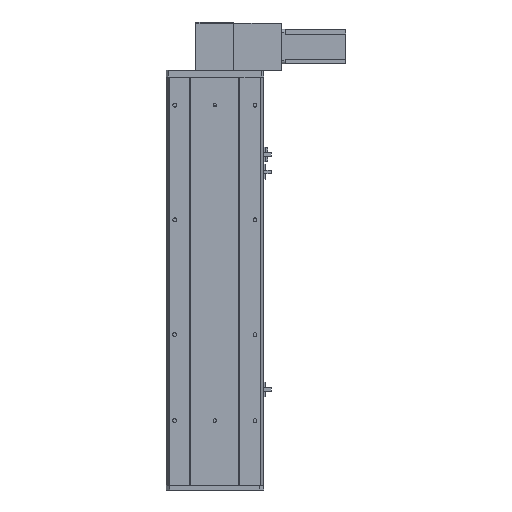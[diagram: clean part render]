
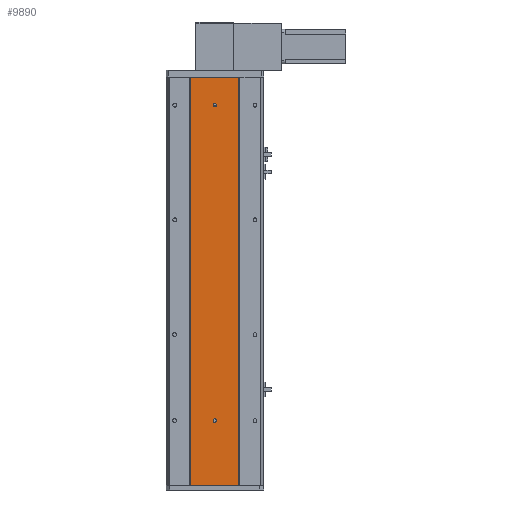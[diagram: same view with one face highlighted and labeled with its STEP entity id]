
A CAD part, front view. The second image highlights one B-rep face of the part: STEP entity #9890.
In plain terms, the highlighted planar face has unit normal (0, -1, 0).
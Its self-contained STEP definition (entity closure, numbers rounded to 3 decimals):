
#94 = CARTESIAN_POINT ( 'NONE',  ( 42.916, 2.57, 0. ) ) ;
#200 = ORIENTED_EDGE ( 'NONE', *, *, #534, .T. ) ;
#534 = EDGE_CURVE ( 'NONE', #6101, #3886, #23353, .T. ) ;
#833 = LINE ( 'NONE', #20082, #23155 ) ;
#838 = CARTESIAN_POINT ( 'NONE',  ( 42.916, 2.57, 712. ) ) ;
#895 = DIRECTION ( 'NONE',  ( -1., 0., 0. ) ) ;
#1037 = CARTESIAN_POINT ( 'NONE',  ( 85., 2.57, 666. ) ) ;
#2146 = LINE ( 'NONE', #4148, #7390 ) ;
#3239 = CARTESIAN_POINT ( 'NONE',  ( 42.916, 2.57, 712. ) ) ;
#3886 = VERTEX_POINT ( 'NONE', #3239 ) ;
#4148 = CARTESIAN_POINT ( 'NONE',  ( 126.916, 2.57, 0. ) ) ;
#4313 = CIRCLE ( 'NONE', #14287, 3. ) ;
#4680 = DIRECTION ( 'NONE',  ( 0., 0., 1. ) ) ;
#6101 = VERTEX_POINT ( 'NONE', #14306 ) ;
#6218 = EDGE_CURVE ( 'NONE', #21740, #11511, #26476, .T. ) ;
#6310 = DIRECTION ( 'NONE',  ( 0., 0., 1. ) ) ;
#6412 = DIRECTION ( 'NONE',  ( 0., 1., 0. ) ) ;
#6442 = EDGE_CURVE ( 'NONE', #10088, #18317, #21228, .T. ) ;
#6498 = CARTESIAN_POINT ( 'NONE',  ( 85., 2.57, 113. ) ) ;
#6542 = CARTESIAN_POINT ( 'NONE',  ( 85., 2.57, 116. ) ) ;
#6714 = ORIENTED_EDGE ( 'NONE', *, *, #24656, .T. ) ;
#7212 = EDGE_CURVE ( 'NONE', #24409, #3886, #833, .T. ) ;
#7390 = VECTOR ( 'NONE', #4680, 1000. ) ;
#7763 = EDGE_LOOP ( 'NONE', ( #6714, #11072 ) ) ;
#7921 = ORIENTED_EDGE ( 'NONE', *, *, #8344, .F. ) ;
#8275 = EDGE_CURVE ( 'NONE', #18062, #6101, #2146, .T. ) ;
#8344 = EDGE_CURVE ( 'NONE', #18062, #24409, #13176, .T. ) ;
#8946 = AXIS2_PLACEMENT_3D ( 'NONE', #22474, #9661, #10910 ) ;
#9501 = AXIS2_PLACEMENT_3D ( 'NONE', #6498, #6412, #6310 ) ;
#9661 = DIRECTION ( 'NONE',  ( 0., 1., 0. ) ) ;
#9731 = EDGE_LOOP ( 'NONE', ( #19404, #12796 ) ) ;
#9826 = DIRECTION ( 'NONE',  ( 0., 1., 0. ) ) ;
#9890 = ADVANCED_FACE ( 'NONE', ( #24675, #19728, #19030 ), #19825, .F. ) ;
#10088 = VERTEX_POINT ( 'NONE', #1037 ) ;
#10910 = DIRECTION ( 'NONE',  ( 0., 0., 1. ) ) ;
#11072 = ORIENTED_EDGE ( 'NONE', *, *, #6218, .T. ) ;
#11393 = VECTOR ( 'NONE', #895, 1000. ) ;
#11511 = VERTEX_POINT ( 'NONE', #18630 ) ;
#11824 = VECTOR ( 'NONE', #26848, 1000. ) ;
#12075 = DIRECTION ( 'NONE',  ( 0., 1., 0. ) ) ;
#12796 = ORIENTED_EDGE ( 'NONE', *, *, #6442, .T. ) ;
#13176 = LINE ( 'NONE', #94, #11824 ) ;
#14287 = AXIS2_PLACEMENT_3D ( 'NONE', #22613, #9826, #24719 ) ;
#14306 = CARTESIAN_POINT ( 'NONE',  ( 126.916, 2.57, 712. ) ) ;
#15500 = ORIENTED_EDGE ( 'NONE', *, *, #8275, .T. ) ;
#16470 = ORIENTED_EDGE ( 'NONE', *, *, #7212, .F. ) ;
#17580 = CARTESIAN_POINT ( 'NONE',  ( 42.916, 2.57, 0. ) ) ;
#18062 = VERTEX_POINT ( 'NONE', #19546 ) ;
#18317 = VERTEX_POINT ( 'NONE', #24602 ) ;
#18351 = DIRECTION ( 'NONE',  ( 0., 0., 1. ) ) ;
#18543 = DIRECTION ( 'NONE',  ( 0., 1., 0. ) ) ;
#18630 = CARTESIAN_POINT ( 'NONE',  ( 85., 2.57, 110. ) ) ;
#19030 = FACE_OUTER_BOUND ( 'NONE', #19491, .T. ) ;
#19404 = ORIENTED_EDGE ( 'NONE', *, *, #20431, .T. ) ;
#19491 = EDGE_LOOP ( 'NONE', ( #200, #16470, #7921, #15500 ) ) ;
#19546 = CARTESIAN_POINT ( 'NONE',  ( 126.916, 2.57, 0. ) ) ;
#19719 = CARTESIAN_POINT ( 'NONE',  ( 42.916, 2.57, 0. ) ) ;
#19728 = FACE_BOUND ( 'NONE', #7763, .T. ) ;
#19825 = PLANE ( 'NONE',  #24411 ) ;
#20082 = CARTESIAN_POINT ( 'NONE',  ( 42.916, 2.57, 0. ) ) ;
#20431 = EDGE_CURVE ( 'NONE', #18317, #10088, #4313, .T. ) ;
#21228 = CIRCLE ( 'NONE', #8946, 3. ) ;
#21740 = VERTEX_POINT ( 'NONE', #6542 ) ;
#22474 = CARTESIAN_POINT ( 'NONE',  ( 85., 2.57, 663. ) ) ;
#22613 = CARTESIAN_POINT ( 'NONE',  ( 85., 2.57, 663. ) ) ;
#23155 = VECTOR ( 'NONE', #24042, 1000. ) ;
#23353 = LINE ( 'NONE', #838, #11393 ) ;
#24042 = DIRECTION ( 'NONE',  ( 0., 0., 1. ) ) ;
#24304 = CIRCLE ( 'NONE', #26209, 3. ) ;
#24409 = VERTEX_POINT ( 'NONE', #17580 ) ;
#24411 = AXIS2_PLACEMENT_3D ( 'NONE', #19719, #18543, #18351 ) ;
#24602 = CARTESIAN_POINT ( 'NONE',  ( 85., 2.57, 660. ) ) ;
#24656 = EDGE_CURVE ( 'NONE', #11511, #21740, #24304, .T. ) ;
#24675 = FACE_BOUND ( 'NONE', #9731, .T. ) ;
#24719 = DIRECTION ( 'NONE',  ( 0., 0., 1. ) ) ;
#24794 = CARTESIAN_POINT ( 'NONE',  ( 85., 2.57, 113. ) ) ;
#26209 = AXIS2_PLACEMENT_3D ( 'NONE', #24794, #12075, #26876 ) ;
#26476 = CIRCLE ( 'NONE', #9501, 3. ) ;
#26848 = DIRECTION ( 'NONE',  ( -1., 0., 0. ) ) ;
#26876 = DIRECTION ( 'NONE',  ( 0., 0., 1. ) ) ;
